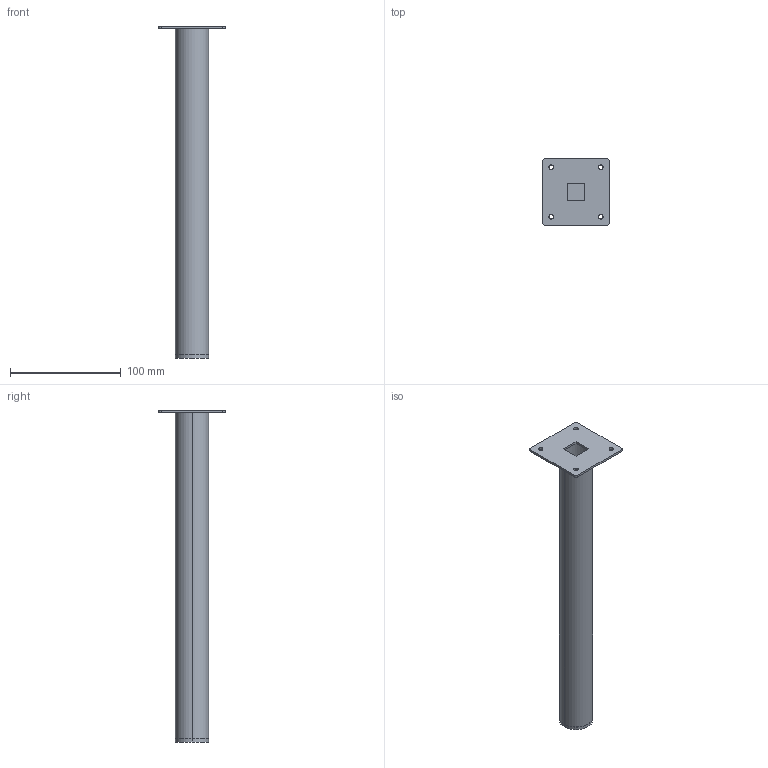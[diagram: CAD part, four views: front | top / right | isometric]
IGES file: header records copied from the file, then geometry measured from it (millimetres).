
Start section: Data from XPlus IGES,  Spatial Corp. Copyright (c) 1999-2004
Global section: file name: 45775.igs; native system:  By Spatial Corp.; preprocessor: XPlus ACIS/IGES 3.0; author: Noname; organization: Noname; date: 20140207.105344; units: millimetre
Bounding box: 60 x 60 x 300 mm (x, y, z)
Surface area: 62728.4 mm2 (no closed solid volume)
Topology: 0 solids, 0 shells, 35 faces, 168 edges, 168 vertices
Faces by surface type: revolution 20, extrusion 15
